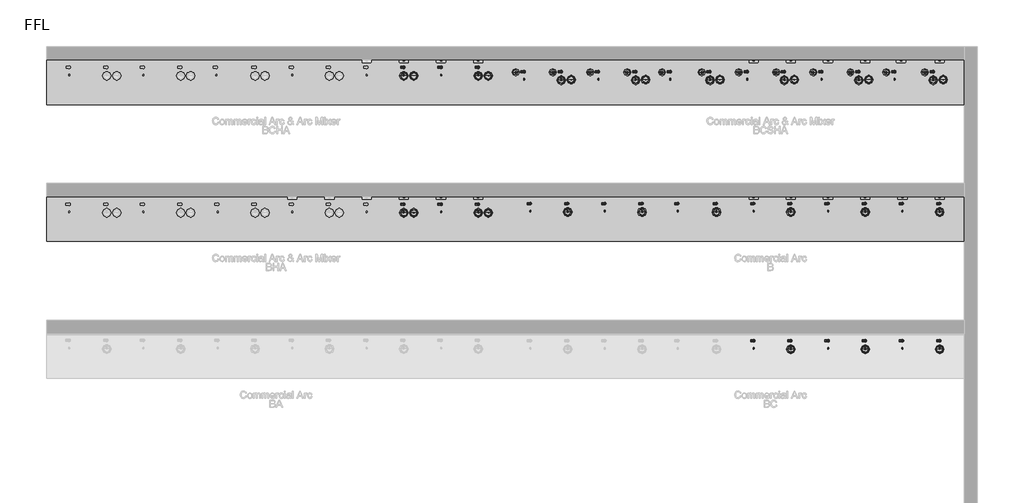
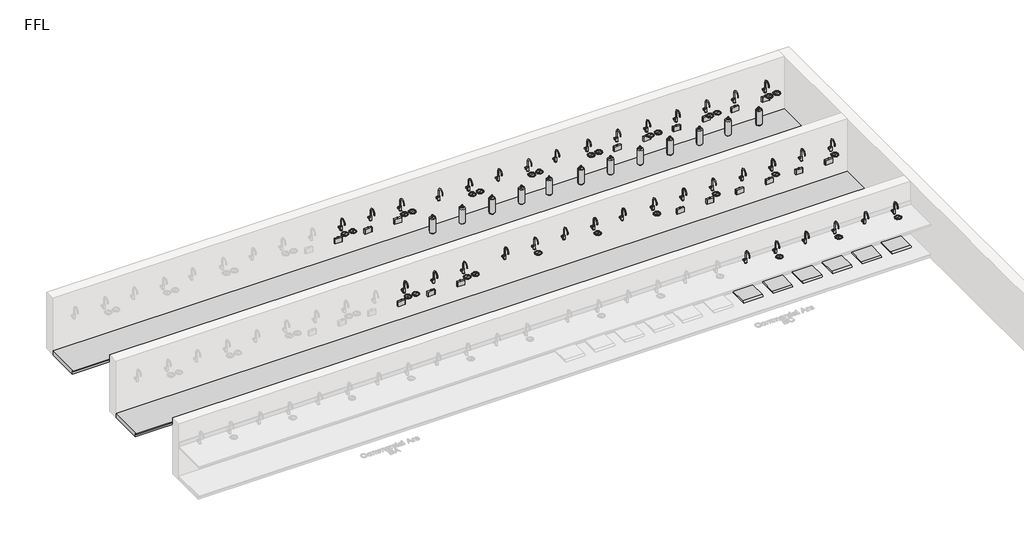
# One storey, part 6 of 10: 107 flow terminals, 2 furniture elements.
"""IFC4 building model written with IfcOpenShell, lengths in millimetres."""

from ifc_helpers import new_model, si_unit, origin, place, context, project, spatial, transform, mapped, element, save
from components import flow_terminal_1fd3c137, bcs_and_bc_6de74493, bright_chrome_dafbc2dd, brushed_chrome_743c02cf, co2_gas_cylinder_20234e14, generic_plinth_900mm_f287d53f

model = new_model("IFC4")

# Units and contexts
model_context = context("Model", 3, world=origin())
ifc_project = project(units=[si_unit("LENGTHUNIT", "METRE", prefix="MILLI")], contexts=[model_context])

# Site, building, storey
site = spatial("IfcSite", under=ifc_project)
building = spatial("IfcBuilding", under=site)
storey = spatial("IfcBuildingStorey", under=building, Name="FFL", Elevation=0.0)

# Flow terminals
placement = place(None, origin())
flow_terminal_shape = flow_terminal_1fd3c137(model_context)
element("IfcFlowTerminal", 1, ObjectType="z_PlumFixt_Zenith_Booster : Booster", at=placement, inside=storey, context=model_context, shape_type="MappedRepresentation", body=[
    mapped(flow_terminal_shape, transform((11036.2647071, 7901.1893304, 498.0), x_axis=(1.0, 0.0, 0.0), y_axis=(0.0, 1.0, 0.0), z_axis=(0.0, 0.0, 1.0))),
])
element("IfcFlowTerminal", 2, ObjectType="z_PlumFixt_Zenith_Booster : Booster", at=placement, inside=storey, context=model_context, shape_type="MappedRepresentation", body=[
    mapped(flow_terminal_shape, transform((10258.2647071, 7901.1893304, 498.0), x_axis=(1.0, 0.0, 0.0), y_axis=(0.0, 1.0, 0.0), z_axis=(0.0, 0.0, 1.0))),
])
element("IfcFlowTerminal", 3, ObjectType="z_PlumFixt_Zenith_Booster : Booster", at=placement, inside=storey, context=model_context, shape_type="MappedRepresentation", body=[
    mapped(flow_terminal_shape, transform((9536.2647071, 7901.1893304, 498.0), x_axis=(1.0, 0.0, 0.0), y_axis=(0.0, 1.0, 0.0), z_axis=(0.0, 0.0, 1.0))),
])
element("IfcFlowTerminal", 4, ObjectType="z_PlumFixt_Zenith_Booster : Booster", at=placement, inside=storey, context=model_context, shape_type="MappedRepresentation", body=[
    mapped(flow_terminal_shape, transform((7286.2647071, 7901.1893304, 498.0), x_axis=(1.0, 0.0, 0.0), y_axis=(0.0, 1.0, 0.0), z_axis=(0.0, 0.0, 1.0))),
])
element("IfcFlowTerminal", 5, ObjectType="z_PlumFixt_Zenith_Booster : Booster", at=placement, inside=storey, context=model_context, shape_type="MappedRepresentation", body=[
    mapped(flow_terminal_shape, transform((8036.2647071, 7901.1893304, 498.0), x_axis=(1.0, 0.0, 0.0), y_axis=(0.0, 1.0, 0.0), z_axis=(0.0, 0.0, 1.0))),
])
element("IfcFlowTerminal", 6, ObjectType="z_PlumFixt_Zenith_Booster : Booster", at=placement, inside=storey, context=model_context, shape_type="MappedRepresentation", body=[
    mapped(flow_terminal_shape, transform((11036.2647071, 5140.2393304, 498.0), x_axis=(1.0, 0.0, 0.0), y_axis=(0.0, 1.0, 0.0), z_axis=(0.0, 0.0, 1.0))),
])
element("IfcFlowTerminal", 7, ObjectType="z_PlumFixt_Zenith_Booster : Booster", at=placement, inside=storey, context=model_context, shape_type="MappedRepresentation", body=[
    mapped(flow_terminal_shape, transform((10286.2647071, 5140.2393304, 498.0), x_axis=(1.0, 0.0, 0.0), y_axis=(0.0, 1.0, 0.0), z_axis=(0.0, 0.0, 1.0))),
])
element("IfcFlowTerminal", 8, ObjectType="z_PlumFixt_Zenith_Booster : Booster", at=placement, inside=storey, context=model_context, shape_type="MappedRepresentation", body=[
    mapped(flow_terminal_shape, transform((9536.2647071, 5140.2393304, 498.0), x_axis=(1.0, 0.0, 0.0), y_axis=(0.0, 1.0, 0.0), z_axis=(0.0, 0.0, 1.0))),
])
element("IfcFlowTerminal", 9, ObjectType="z_PlumFixt_Zenith_Booster : Booster", at=placement, inside=storey, context=model_context, shape_type="MappedRepresentation", body=[
    mapped(flow_terminal_shape, transform((8786.2647071, 5140.2393304, 498.0), x_axis=(1.0, 0.0, 0.0), y_axis=(0.0, 1.0, 0.0), z_axis=(0.0, 0.0, 1.0))),
])
element("IfcFlowTerminal", 10, ObjectType="z_PlumFixt_Zenith_Booster : Booster", at=placement, inside=storey, context=model_context, shape_type="MappedRepresentation", body=[
    mapped(flow_terminal_shape, transform((8036.2647071, 5140.2393304, 498.0), x_axis=(1.0, 0.0, 0.0), y_axis=(0.0, 1.0, 0.0), z_axis=(0.0, 0.0, 1.0))),
])
element("IfcFlowTerminal", 11, ObjectType="z_PlumFixt_Zenith_Booster : Booster", at=placement, inside=storey, context=model_context, shape_type="MappedRepresentation", body=[
    mapped(flow_terminal_shape, transform((7286.2647071, 5140.2393304, 498.0), x_axis=(1.0, 0.0, 0.0), y_axis=(0.0, 1.0, 0.0), z_axis=(0.0, 0.0, 1.0))),
])
element("IfcFlowTerminal", 12, ObjectType="z_PlumFixt_Zenith_Booster : Booster", at=placement, inside=storey, context=model_context, shape_type="MappedRepresentation", body=[
    mapped(flow_terminal_shape, transform((10286.2647071, 2380.2393304, 538.0), x_axis=(1.0, 0.0, 0.0), y_axis=(0.0, 1.0, 0.0), z_axis=(0.0, 0.0, 1.0))),
])
element("IfcFlowTerminal", 13, ObjectType="z_PlumFixt_Zenith_Booster : Booster", at=placement, inside=storey, context=model_context, shape_type="MappedRepresentation", body=[
    mapped(flow_terminal_shape, transform((9536.2647071, 2380.2393304, 538.0), x_axis=(1.0, 0.0, 0.0), y_axis=(0.0, 1.0, 0.0), z_axis=(0.0, 0.0, 1.0))),
])
element("IfcFlowTerminal", 14, ObjectType="z_PlumFixt_Zenith_Booster : Booster", at=placement, inside=storey, context=model_context, shape_type="MappedRepresentation", body=[
    mapped(flow_terminal_shape, transform((8786.2647071, 2380.2393304, 538.0), x_axis=(1.0, 0.0, 0.0), y_axis=(0.0, 1.0, 0.0), z_axis=(0.0, 0.0, 1.0))),
])
element("IfcFlowTerminal", 15, ObjectType="z_PlumFixt_Zenith_Booster : Booster", at=placement, inside=storey, context=model_context, shape_type="MappedRepresentation", body=[
    mapped(flow_terminal_shape, transform((8036.2647071, 2380.2393304, 538.0), x_axis=(1.0, 0.0, 0.0), y_axis=(0.0, 1.0, 0.0), z_axis=(0.0, 0.0, 1.0))),
])
element("IfcFlowTerminal", 16, ObjectType="z_PlumFixt_Zenith_Booster : Booster", at=placement, inside=storey, context=model_context, shape_type="MappedRepresentation", body=[
    mapped(flow_terminal_shape, transform((7286.2647071, 2380.2393304, 538.0), x_axis=(1.0, 0.0, 0.0), y_axis=(0.0, 1.0, 0.0), z_axis=(0.0, 0.0, 1.0))),
])
element("IfcFlowTerminal", 17, ObjectType="z_PlumFixt_Zenith_Booster : Booster", at=placement, inside=storey, context=model_context, shape_type="MappedRepresentation", body=[
    mapped(flow_terminal_shape, transform((1733.2647071, 5140.2393304, 498.0), x_axis=(1.0, 0.0, 0.0), y_axis=(0.0, 1.0, 0.0), z_axis=(0.0, 0.0, 1.0))),
])
element("IfcFlowTerminal", 18, ObjectType="z_PlumFixt_Zenith_Booster : Booster", at=placement, inside=storey, context=model_context, shape_type="MappedRepresentation", body=[
    mapped(flow_terminal_shape, transform((983.2647071, 5140.2393304, 498.0), x_axis=(1.0, 0.0, 0.0), y_axis=(0.0, 1.0, 0.0), z_axis=(0.0, 0.0, 1.0))),
])
element("IfcFlowTerminal", 19, ObjectType="z_PlumFixt_Zenith_Booster : Booster", at=placement, inside=storey, context=model_context, shape_type="MappedRepresentation", body=[
    mapped(flow_terminal_shape, transform((233.2647071, 5140.2393304, 498.0), x_axis=(1.0, 0.0, 0.0), y_axis=(0.0, 1.0, 0.0), z_axis=(0.0, 0.0, 1.0))),
])
element("IfcFlowTerminal", 20, ObjectType="z_PlumFixt_Zenith_Booster : Booster", at=placement, inside=storey, context=model_context, shape_type="MappedRepresentation", body=[
    mapped(flow_terminal_shape, transform((11036.2647071, 2380.2393304, 538.0), x_axis=(1.0, 0.0, 0.0), y_axis=(0.0, 1.0, 0.0), z_axis=(0.0, 0.0, 1.0))),
])
element("IfcFlowTerminal", 21, ObjectType="z_PlumFixt_Zenith_Booster : Booster", at=placement, inside=storey, context=model_context, shape_type="MappedRepresentation", body=[
    mapped(flow_terminal_shape, transform((1733.2647071, 7900.2393304, 498.0), x_axis=(1.0, 0.0, 0.0), y_axis=(0.0, 1.0, 0.0), z_axis=(0.0, 0.0, 1.0))),
])
element("IfcFlowTerminal", 22, ObjectType="z_PlumFixt_Zenith_Booster : Booster", at=placement, inside=storey, context=model_context, shape_type="MappedRepresentation", body=[
    mapped(flow_terminal_shape, transform((983.2647071, 7900.2393304, 498.0), x_axis=(1.0, 0.0, 0.0), y_axis=(0.0, 1.0, 0.0), z_axis=(0.0, 0.0, 1.0))),
])
element("IfcFlowTerminal", 23, ObjectType="z_PlumFixt_Zenith_Booster : Booster", at=placement, inside=storey, context=model_context, shape_type="MappedRepresentation", body=[
    mapped(flow_terminal_shape, transform((233.2647071, 7900.2393304, 498.0), x_axis=(1.0, 0.0, 0.0), y_axis=(0.0, 1.0, 0.0), z_axis=(0.0, 0.0, 1.0))),
])
element("IfcFlowTerminal", 24, ObjectType="z_PlumFixt_Zenith_Booster : Booster", at=placement, inside=storey, context=model_context, shape_type="MappedRepresentation", body=[
    mapped(flow_terminal_shape, transform((8786.2647071, 7901.1893304, 498.0), x_axis=(1.0, 0.0, 0.0), y_axis=(0.0, 1.0, 0.0), z_axis=(0.0, 0.0, 1.0))),
])
bcs_and_bc_shape = bcs_and_bc_6de74493(model_context)
element("IfcFlowTerminal", 25, ObjectType="z_PlumFixt_Zenith_Vent Tray : BCS and BC", at=placement, inside=storey, context=model_context, shape_type="MappedRepresentation", body=[
    mapped(bcs_and_bc_shape, transform((7286.2647071, 2200.7393304, 100.0), x_axis=(1.0, 0.0, 0.0), y_axis=(0.0, 1.0, 0.0), z_axis=(0.0, 0.0, 1.0))),
])
element("IfcFlowTerminal", 26, ObjectType="z_PlumFixt_Zenith_Vent Tray : BCS and BC", at=placement, inside=storey, context=model_context, shape_type="MappedRepresentation", body=[
    mapped(bcs_and_bc_shape, transform((8036.2647071, 2200.7393304, 100.0), x_axis=(1.0, 0.0, 0.0), y_axis=(0.0, 1.0, 0.0), z_axis=(0.0, 0.0, 1.0))),
])
element("IfcFlowTerminal", 27, ObjectType="z_PlumFixt_Zenith_Vent Tray : BCS and BC", at=placement, inside=storey, context=model_context, shape_type="MappedRepresentation", body=[
    mapped(bcs_and_bc_shape, transform((8786.2647071, 2200.7393304, 100.0), x_axis=(1.0, 0.0, 0.0), y_axis=(0.0, 1.0, 0.0), z_axis=(0.0, 0.0, 1.0))),
])
element("IfcFlowTerminal", 28, ObjectType="z_PlumFixt_Zenith_Vent Tray : BCS and BC", at=placement, inside=storey, context=model_context, shape_type="MappedRepresentation", body=[
    mapped(bcs_and_bc_shape, transform((9536.2647071, 2200.7393304, 100.0), x_axis=(1.0, 0.0, 0.0), y_axis=(0.0, 1.0, 0.0), z_axis=(0.0, 0.0, 1.0))),
])
element("IfcFlowTerminal", 29, ObjectType="z_PlumFixt_Zenith_Vent Tray : BCS and BC", at=placement, inside=storey, context=model_context, shape_type="MappedRepresentation", body=[
    mapped(bcs_and_bc_shape, transform((10286.2647071, 2200.7393304, 100.0), x_axis=(1.0, 0.0, 0.0), y_axis=(0.0, 1.0, 0.0), z_axis=(0.0, 0.0, 1.0))),
])
element("IfcFlowTerminal", 30, ObjectType="z_PlumFixt_Zenith_Vent Tray : BCS and BC", at=placement, inside=storey, context=model_context, shape_type="MappedRepresentation", body=[
    mapped(bcs_and_bc_shape, transform((11036.2647071, 2200.7393304, 100.0), x_axis=(1.0, 0.0, 0.0), y_axis=(0.0, 1.0, 0.0), z_axis=(0.0, 0.0, 1.0))),
])
bright_chrome_shape = bright_chrome_dafbc2dd(model_context)
element("IfcFlowTerminal", 31, ObjectType="z_PlumFixt_Zenith_Arc : Bright Chrome", at=placement, inside=storey, context=model_context, shape_type="MappedRepresentation", body=[
    mapped(bright_chrome_shape, transform((2639.6778229, 7524.5155619, 900.0), x_axis=(1.0, 0.0, 0.0), y_axis=(0.0, 1.0, 0.0), z_axis=(0.0, 0.0, 1.0))),
])
element("IfcFlowTerminal", 32, ObjectType="z_PlumFixt_Zenith_Arc : Bright Chrome", at=placement, inside=storey, context=model_context, shape_type="MappedRepresentation", body=[
    mapped(bright_chrome_shape, transform((2769.2647071, 4865.7393304, 900.0), x_axis=(1.0, 0.0, 0.0), y_axis=(0.0, 1.0, 0.0), z_axis=(0.0, 0.0, 1.0))),
])
brushed_chrome_shape = brushed_chrome_743c02cf(model_context)
element("IfcFlowTerminal", 33, ObjectType="z_PlumFixt_Zenith_Font : Brushed Chrome", at=placement, inside=storey, context=model_context, shape_type="MappedRepresentation", body=[
    mapped(brushed_chrome_shape, transform((3406.6778229, 7425.0155619, 900.0), x_axis=(1.0, 0.0, 0.0), y_axis=(0.0, 1.0, 0.0), z_axis=(0.0, 0.0, 1.0))),
])
element("IfcFlowTerminal", 34, ObjectType="z_PlumFixt_Zenith_Font : Brushed Chrome", at=placement, inside=storey, context=model_context, shape_type="MappedRepresentation", body=[
    mapped(brushed_chrome_shape, transform((3606.6778229, 7436.6616039, 900.0), x_axis=(1.0, 0.0, 0.0), y_axis=(0.0, 1.0, 0.0), z_axis=(0.0, 0.0, 1.0))),
])
element("IfcFlowTerminal", 35, ObjectType="z_PlumFixt_Zenith_Font : Brushed Chrome", at=placement, inside=storey, context=model_context, shape_type="MappedRepresentation", body=[
    mapped(brushed_chrome_shape, transform((3536.2647071, 4766.2393304, 900.0), x_axis=(1.0, 0.0, 0.0), y_axis=(0.0, 1.0, 0.0), z_axis=(0.0, 0.0, 1.0))),
])
element("IfcFlowTerminal", 36, ObjectType="z_PlumFixt_Zenith_Arc : Brushed Chrome", at=placement, inside=storey, context=model_context, shape_type="MappedRepresentation", body=[
    mapped(bright_chrome_shape, transform((3389.6778229, 7524.5155619, 900.0), x_axis=(1.0, 0.0, 0.0), y_axis=(0.0, 1.0, 0.0), z_axis=(0.0, 0.0, 1.0))),
])
element("IfcFlowTerminal", 37, ObjectType="z_PlumFixt_Zenith_Arc : Brushed Chrome", at=placement, inside=storey, context=model_context, shape_type="MappedRepresentation", body=[
    mapped(bright_chrome_shape, transform((3519.2647071, 4865.7393304, 900.0), x_axis=(1.0, 0.0, 0.0), y_axis=(0.0, 1.0, 0.0), z_axis=(0.0, 0.0, 1.0))),
])
element("IfcFlowTerminal", 38, ObjectType="z_PlumFixt_Zenith_Arc : Brushed Gold", at=placement, inside=storey, context=model_context, shape_type="MappedRepresentation", body=[
    mapped(bright_chrome_shape, transform((4139.6778229, 7524.5155619, 900.0), x_axis=(1.0, 0.0, 0.0), y_axis=(0.0, 1.0, 0.0), z_axis=(0.0, 0.0, 1.0))),
])
element("IfcFlowTerminal", 39, ObjectType="z_PlumFixt_Zenith_Arc : Brushed Gold", at=placement, inside=storey, context=model_context, shape_type="MappedRepresentation", body=[
    mapped(bright_chrome_shape, transform((4269.2647071, 4865.7393304, 900.0), x_axis=(1.0, 0.0, 0.0), y_axis=(0.0, 1.0, 0.0), z_axis=(0.0, 0.0, 1.0))),
])
element("IfcFlowTerminal", 40, ObjectType="z_PlumFixt_Zenith_Font : Brushed Nickel", at=placement, inside=storey, context=model_context, shape_type="MappedRepresentation", body=[
    mapped(brushed_chrome_shape, transform((4906.6778229, 7425.0155619, 900.0), x_axis=(1.0, 0.0, 0.0), y_axis=(0.0, 1.0, 0.0), z_axis=(0.0, 0.0, 1.0))),
])
element("IfcFlowTerminal", 41, ObjectType="z_PlumFixt_Zenith_Font : Brushed Nickel", at=placement, inside=storey, context=model_context, shape_type="MappedRepresentation", body=[
    mapped(brushed_chrome_shape, transform((5106.6778229, 7436.6616039, 900.0), x_axis=(1.0, 0.0, 0.0), y_axis=(0.0, 1.0, 0.0), z_axis=(0.0, 0.0, 1.0))),
])
element("IfcFlowTerminal", 42, ObjectType="z_PlumFixt_Zenith_Font : Brushed Nickel", at=placement, inside=storey, context=model_context, shape_type="MappedRepresentation", body=[
    mapped(brushed_chrome_shape, transform((5036.2647071, 4766.2393304, 900.0), x_axis=(1.0, 0.0, 0.0), y_axis=(0.0, 1.0, 0.0), z_axis=(0.0, 0.0, 1.0))),
])
element("IfcFlowTerminal", 43, ObjectType="z_PlumFixt_Zenith_Arc : Brushed Nickel", at=placement, inside=storey, context=model_context, shape_type="MappedRepresentation", body=[
    mapped(bright_chrome_shape, transform((4889.6778229, 7524.5155619, 900.0), x_axis=(1.0, 0.0, 0.0), y_axis=(0.0, 1.0, 0.0), z_axis=(0.0, 0.0, 1.0))),
])
element("IfcFlowTerminal", 44, ObjectType="z_PlumFixt_Zenith_Arc : Brushed Nickel", at=placement, inside=storey, context=model_context, shape_type="MappedRepresentation", body=[
    mapped(bright_chrome_shape, transform((5019.2647071, 4865.7393304, 900.0), x_axis=(1.0, 0.0, 0.0), y_axis=(0.0, 1.0, 0.0), z_axis=(0.0, 0.0, 1.0))),
])
element("IfcFlowTerminal", 45, ObjectType="z_PlumFixt_Zenith_Arc : Brushed Rose Gold", at=placement, inside=storey, context=model_context, shape_type="MappedRepresentation", body=[
    mapped(bright_chrome_shape, transform((5741.2647071, 4865.7393304, 900.0), x_axis=(1.0, 0.0, 0.0), y_axis=(0.0, 1.0, 0.0), z_axis=(0.0, 0.0, 1.0))),
])
element("IfcFlowTerminal", 46, ObjectType="z_PlumFixt_Zenith_Arc : Brushed Rose Gold", at=placement, inside=storey, context=model_context, shape_type="MappedRepresentation", body=[
    mapped(bright_chrome_shape, transform((5589.6778229, 7524.5155619, 900.0), x_axis=(1.0, 0.0, 0.0), y_axis=(0.0, 1.0, 0.0), z_axis=(0.0, 0.0, 1.0))),
])
co2_gas_cylinder_shape = co2_gas_cylinder_20234e14(model_context)
element("IfcFlowTerminal", 47, ObjectType="z_PlumFixt_Zenith_CO2 Gas Cylinder : CO2 Gas Cylinder", at=placement, inside=storey, context=model_context, shape_type="MappedRepresentation", body=[
    mapped(co2_gas_cylinder_shape, transform((10741.2647071, 7510.1893304, 100.0), x_axis=(-1.0, 0.0, 0.0), y_axis=(0.0, -1.0, 0.0), z_axis=(0.0, 0.0, 1.0))),
])
element("IfcFlowTerminal", 48, ObjectType="z_PlumFixt_Zenith_CO2 Gas Cylinder : CO2 Gas Cylinder", at=placement, inside=storey, context=model_context, shape_type="MappedRepresentation", body=[
    mapped(co2_gas_cylinder_shape, transform((9963.2647071, 7510.1893304, 100.0), x_axis=(-1.0, 0.0, 0.0), y_axis=(0.0, -1.0, 0.0), z_axis=(0.0, 0.0, 1.0))),
])
element("IfcFlowTerminal", 49, ObjectType="z_PlumFixt_Zenith_CO2 Gas Cylinder : CO2 Gas Cylinder", at=placement, inside=storey, context=model_context, shape_type="MappedRepresentation", body=[
    mapped(co2_gas_cylinder_shape, transform((9241.2647071, 7510.1893304, 100.0), x_axis=(-1.0, 0.0, 0.0), y_axis=(0.0, -1.0, 0.0), z_axis=(0.0, 0.0, 1.0))),
])
element("IfcFlowTerminal", 50, ObjectType="z_PlumFixt_Zenith_CO2 Gas Cylinder : CO2 Gas Cylinder", at=placement, inside=storey, context=model_context, shape_type="MappedRepresentation", body=[
    mapped(co2_gas_cylinder_shape, transform((7741.2647071, 7510.1893304, 100.0), x_axis=(-1.0, 0.0, 0.0), y_axis=(0.0, -1.0, 0.0), z_axis=(0.0, 0.0, 1.0))),
])
element("IfcFlowTerminal", 51, ObjectType="z_PlumFixt_Zenith_CO2 Gas Cylinder : CO2 Gas Cylinder", at=placement, inside=storey, context=model_context, shape_type="MappedRepresentation", body=[
    mapped(co2_gas_cylinder_shape, transform((6991.2647071, 7510.1893304, 100.0), x_axis=(-1.0, 0.0, 0.0), y_axis=(0.0, -1.0, 0.0), z_axis=(0.0, 0.0, 1.0))),
])
element("IfcFlowTerminal", 52, ObjectType="z_PlumFixt_Zenith_CO2 Gas Cylinder : CO2 Gas Cylinder", at=placement, inside=storey, context=model_context, shape_type="MappedRepresentation", body=[
    mapped(co2_gas_cylinder_shape, transform((4741.2647071, 7510.1893304, 100.0), x_axis=(-1.0, 0.0, 0.0), y_axis=(0.0, -1.0, 0.0), z_axis=(0.0, 0.0, 1.0))),
])
element("IfcFlowTerminal", 53, ObjectType="z_PlumFixt_Zenith_CO2 Gas Cylinder : CO2 Gas Cylinder", at=placement, inside=storey, context=model_context, shape_type="MappedRepresentation", body=[
    mapped(co2_gas_cylinder_shape, transform((3991.2647071, 7510.1893304, 100.0), x_axis=(-1.0, 0.0, 0.0), y_axis=(0.0, -1.0, 0.0), z_axis=(0.0, 0.0, 1.0))),
])
element("IfcFlowTerminal", 54, ObjectType="z_PlumFixt_Zenith_CO2 Gas Cylinder : CO2 Gas Cylinder", at=placement, inside=storey, context=model_context, shape_type="MappedRepresentation", body=[
    mapped(co2_gas_cylinder_shape, transform((3241.2647071, 7510.1893304, 100.0), x_axis=(-1.0, 0.0, 0.0), y_axis=(0.0, -1.0, 0.0), z_axis=(0.0, 0.0, 1.0))),
])
element("IfcFlowTerminal", 55, ObjectType="z_PlumFixt_Zenith_CO2 Gas Cylinder : CO2 Gas Cylinder", at=placement, inside=storey, context=model_context, shape_type="MappedRepresentation", body=[
    mapped(co2_gas_cylinder_shape, transform((2491.2647071, 7510.1893304, 100.0), x_axis=(-1.0, 0.0, 0.0), y_axis=(0.0, -1.0, 0.0), z_axis=(0.0, 0.0, 1.0))),
])
element("IfcFlowTerminal", 56, ObjectType="z_PlumFixt_Zenith_CO2 Gas Cylinder : CO2 Gas Cylinder", at=placement, inside=storey, context=model_context, shape_type="MappedRepresentation", body=[
    mapped(co2_gas_cylinder_shape, transform((5441.2647071, 7510.1893304, 100.0), x_axis=(-1.0, 0.0, 0.0), y_axis=(0.0, -1.0, 0.0), z_axis=(0.0, 0.0, 1.0))),
])
element("IfcFlowTerminal", 57, ObjectType="z_PlumFixt_Zenith_CO2 Gas Cylinder : CO2 Gas Cylinder", at=placement, inside=storey, context=model_context, shape_type="MappedRepresentation", body=[
    mapped(co2_gas_cylinder_shape, transform((6241.2647071, 7510.1893304, 100.0), x_axis=(-1.0, 0.0, 0.0), y_axis=(0.0, -1.0, 0.0), z_axis=(0.0, 0.0, 1.0))),
])
element("IfcFlowTerminal", 58, ObjectType="z_PlumFixt_Zenith_CO2 Gas Cylinder : CO2 Gas Cylinder", at=placement, inside=storey, context=model_context, shape_type="MappedRepresentation", body=[
    mapped(co2_gas_cylinder_shape, transform((8491.2647071, 7510.1893304, 100.0), x_axis=(-1.0, 0.0, 0.0), y_axis=(0.0, -1.0, 0.0), z_axis=(0.0, 0.0, 1.0))),
])
element("IfcFlowTerminal", 59, ObjectType="z_PlumFixt_Zenith_Font : Gloss Black", at=placement, inside=storey, context=model_context, shape_type="MappedRepresentation", body=[
    mapped(brushed_chrome_shape, transform((6536.2647071, 4766.2393304, 900.0), x_axis=(1.0, 0.0, 0.0), y_axis=(0.0, 1.0, 0.0), z_axis=(0.0, 0.0, 1.0))),
])
element("IfcFlowTerminal", 60, ObjectType="z_PlumFixt_Zenith_Font : Gloss Black", at=placement, inside=storey, context=model_context, shape_type="MappedRepresentation", body=[
    mapped(brushed_chrome_shape, transform((6406.6778229, 7425.0155619, 900.0), x_axis=(1.0, 0.0, 0.0), y_axis=(0.0, 1.0, 0.0), z_axis=(0.0, 0.0, 1.0))),
])
element("IfcFlowTerminal", 61, ObjectType="z_PlumFixt_Zenith_Font : Gloss Black", at=placement, inside=storey, context=model_context, shape_type="MappedRepresentation", body=[
    mapped(brushed_chrome_shape, transform((6606.6778229, 7436.6616039, 900.0), x_axis=(1.0, 0.0, 0.0), y_axis=(0.0, 1.0, 0.0), z_axis=(0.0, 0.0, 1.0))),
])
element("IfcFlowTerminal", 62, ObjectType="z_PlumFixt_Zenith_Arc : Gloss Black", at=placement, inside=storey, context=model_context, shape_type="MappedRepresentation", body=[
    mapped(bright_chrome_shape, transform((6519.2647071, 4865.7393304, 900.0), x_axis=(1.0, 0.0, 0.0), y_axis=(0.0, 1.0, 0.0), z_axis=(0.0, 0.0, 1.0))),
])
element("IfcFlowTerminal", 63, ObjectType="z_PlumFixt_Zenith_Arc : Gloss Black", at=placement, inside=storey, context=model_context, shape_type="MappedRepresentation", body=[
    mapped(bright_chrome_shape, transform((6389.6778229, 7524.5155619, 900.0), x_axis=(1.0, 0.0, 0.0), y_axis=(0.0, 1.0, 0.0), z_axis=(0.0, 0.0, 1.0))),
])
element("IfcFlowTerminal", 64, ObjectType="z_PlumFixt_Zenith_Arc : Gold", at=placement, inside=storey, context=model_context, shape_type="MappedRepresentation", body=[
    mapped(bright_chrome_shape, transform((7139.6778229, 7524.5155619, 900.0), x_axis=(1.0, 0.0, 0.0), y_axis=(0.0, 1.0, 0.0), z_axis=(0.0, 0.0, 1.0))),
])
element("IfcFlowTerminal", 65, ObjectType="z_PlumFixt_Zenith_Arc : Gold", at=placement, inside=storey, context=model_context, shape_type="MappedRepresentation", body=[
    mapped(bright_chrome_shape, transform((7269.2647071, 4865.7393304, 900.0), x_axis=(1.0, 0.0, 0.0), y_axis=(0.0, 1.0, 0.0), z_axis=(0.0, 0.0, 1.0))),
])
element("IfcFlowTerminal", 66, ObjectType="z_PlumFixt_Zenith_Arc : Gold", at=placement, inside=storey, context=model_context, shape_type="MappedRepresentation", body=[
    mapped(bright_chrome_shape, transform((7269.2647071, 2099.3893304, 900.0), x_axis=(1.0, 0.0, 0.0), y_axis=(0.0, 1.0, 0.0), z_axis=(0.0, 0.0, 1.0))),
])
element("IfcFlowTerminal", 67, ObjectType="z_PlumFixt_Zenith_Font : Gunmetal", at=placement, inside=storey, context=model_context, shape_type="MappedRepresentation", body=[
    mapped(brushed_chrome_shape, transform((7906.6778229, 7425.0155619, 900.0), x_axis=(1.0, 0.0, 0.0), y_axis=(0.0, 1.0, 0.0), z_axis=(0.0, 0.0, 1.0))),
])
element("IfcFlowTerminal", 68, ObjectType="z_PlumFixt_Zenith_Font : Gunmetal", at=placement, inside=storey, context=model_context, shape_type="MappedRepresentation", body=[
    mapped(brushed_chrome_shape, transform((8106.6778229, 7436.6616039, 900.0), x_axis=(1.0, 0.0, 0.0), y_axis=(0.0, 1.0, 0.0), z_axis=(0.0, 0.0, 1.0))),
])
element("IfcFlowTerminal", 69, ObjectType="z_PlumFixt_Zenith_Font : Gunmetal", at=placement, inside=storey, context=model_context, shape_type="MappedRepresentation", body=[
    mapped(brushed_chrome_shape, transform((8036.2647071, 4766.2393304, 900.0), x_axis=(1.0, 0.0, 0.0), y_axis=(0.0, 1.0, 0.0), z_axis=(0.0, 0.0, 1.0))),
])
element("IfcFlowTerminal", 70, ObjectType="z_PlumFixt_Zenith_Font : Gunmetal", at=placement, inside=storey, context=model_context, shape_type="MappedRepresentation", body=[
    mapped(brushed_chrome_shape, transform((8036.2647071, 1999.8893304, 900.0), x_axis=(1.0, 0.0, 0.0), y_axis=(0.0, 1.0, 0.0), z_axis=(0.0, 0.0, 1.0))),
])
element("IfcFlowTerminal", 71, ObjectType="z_PlumFixt_Zenith_Arc : Gunmetal", at=placement, inside=storey, context=model_context, shape_type="MappedRepresentation", body=[
    mapped(bright_chrome_shape, transform((7889.6778229, 7524.5155619, 900.0), x_axis=(1.0, 0.0, 0.0), y_axis=(0.0, 1.0, 0.0), z_axis=(0.0, 0.0, 1.0))),
])
element("IfcFlowTerminal", 72, ObjectType="z_PlumFixt_Zenith_Arc : Gunmetal", at=placement, inside=storey, context=model_context, shape_type="MappedRepresentation", body=[
    mapped(bright_chrome_shape, transform((8019.2647071, 4865.7393304, 900.0), x_axis=(1.0, 0.0, 0.0), y_axis=(0.0, 1.0, 0.0), z_axis=(0.0, 0.0, 1.0))),
])
element("IfcFlowTerminal", 73, ObjectType="z_PlumFixt_Zenith_Arc : Gunmetal", at=placement, inside=storey, context=model_context, shape_type="MappedRepresentation", body=[
    mapped(bright_chrome_shape, transform((8019.2647071, 2099.3893304, 900.0), x_axis=(1.0, 0.0, 0.0), y_axis=(0.0, 1.0, 0.0), z_axis=(0.0, 0.0, 1.0))),
])
element("IfcFlowTerminal", 74, ObjectType="z_PlumFixt_Zenith_Arc : Matte Black", at=placement, inside=storey, context=model_context, shape_type="MappedRepresentation", body=[
    mapped(bright_chrome_shape, transform((8769.2647071, 4865.7393304, 900.0), x_axis=(1.0, 0.0, 0.0), y_axis=(0.0, 1.0, 0.0), z_axis=(0.0, 0.0, 1.0))),
])
element("IfcFlowTerminal", 75, ObjectType="z_PlumFixt_Zenith_Arc : Matte Black", at=placement, inside=storey, context=model_context, shape_type="MappedRepresentation", body=[
    mapped(bright_chrome_shape, transform((8769.2647071, 2099.3893304, 900.0), x_axis=(1.0, 0.0, 0.0), y_axis=(0.0, 1.0, 0.0), z_axis=(0.0, 0.0, 1.0))),
])
element("IfcFlowTerminal", 76, ObjectType="z_PlumFixt_Zenith_Arc : Matte Black", at=placement, inside=storey, context=model_context, shape_type="MappedRepresentation", body=[
    mapped(bright_chrome_shape, transform((8639.6778229, 7524.5155619, 900.0), x_axis=(1.0, 0.0, 0.0), y_axis=(0.0, 1.0, 0.0), z_axis=(0.0, 0.0, 1.0))),
])
element("IfcFlowTerminal", 77, ObjectType="z_PlumFixt_Zenith_Font : Nickel", at=placement, inside=storey, context=model_context, shape_type="MappedRepresentation", body=[
    mapped(brushed_chrome_shape, transform((9406.6778229, 7425.0155619, 900.0), x_axis=(1.0, 0.0, 0.0), y_axis=(0.0, 1.0, 0.0), z_axis=(0.0, 0.0, 1.0))),
])
element("IfcFlowTerminal", 78, ObjectType="z_PlumFixt_Zenith_Font : Nickel", at=placement, inside=storey, context=model_context, shape_type="MappedRepresentation", body=[
    mapped(brushed_chrome_shape, transform((9606.6778229, 7436.6616039, 900.0), x_axis=(1.0, 0.0, 0.0), y_axis=(0.0, 1.0, 0.0), z_axis=(0.0, 0.0, 1.0))),
])
element("IfcFlowTerminal", 79, ObjectType="z_PlumFixt_Zenith_Font : Nickel", at=placement, inside=storey, context=model_context, shape_type="MappedRepresentation", body=[
    mapped(brushed_chrome_shape, transform((9536.2647071, 4766.2393304, 900.0), x_axis=(1.0, 0.0, 0.0), y_axis=(0.0, 1.0, 0.0), z_axis=(0.0, 0.0, 1.0))),
])
element("IfcFlowTerminal", 80, ObjectType="z_PlumFixt_Zenith_Font : Nickel", at=placement, inside=storey, context=model_context, shape_type="MappedRepresentation", body=[
    mapped(brushed_chrome_shape, transform((9536.2647071, 1999.8893304, 900.0), x_axis=(1.0, 0.0, 0.0), y_axis=(0.0, 1.0, 0.0), z_axis=(0.0, 0.0, 1.0))),
])
element("IfcFlowTerminal", 81, ObjectType="z_PlumFixt_Zenith_Font : Nickel", at=placement, inside=storey, context=model_context, shape_type="MappedRepresentation", body=[
    mapped(brushed_chrome_shape, transform((233.2647071, 4751.2393304, 900.0), x_axis=(1.0, 0.0, 0.0), y_axis=(0.0, 1.0, 0.0), z_axis=(0.0, 0.0, 1.0))),
])
element("IfcFlowTerminal", 82, ObjectType="z_PlumFixt_Zenith_Font : Nickel", at=placement, inside=storey, context=model_context, shape_type="MappedRepresentation", body=[
    mapped(brushed_chrome_shape, transform((433.2647071, 4751.2393304, 900.0), x_axis=(1.0, 0.0, 0.0), y_axis=(0.0, 1.0, 0.0), z_axis=(0.0, 0.0, 1.0))),
])
element("IfcFlowTerminal", 83, ObjectType="z_PlumFixt_Zenith_Font : Nickel", at=placement, inside=storey, context=model_context, shape_type="MappedRepresentation", body=[
    mapped(brushed_chrome_shape, transform((233.2647071, 7511.2393304, 900.0), x_axis=(1.0, 0.0, 0.0), y_axis=(0.0, 1.0, 0.0), z_axis=(0.0, 0.0, 1.0))),
])
element("IfcFlowTerminal", 84, ObjectType="z_PlumFixt_Zenith_Font : Nickel", at=placement, inside=storey, context=model_context, shape_type="MappedRepresentation", body=[
    mapped(brushed_chrome_shape, transform((433.2647071, 7511.2393304, 900.0), x_axis=(1.0, 0.0, 0.0), y_axis=(0.0, 1.0, 0.0), z_axis=(0.0, 0.0, 1.0))),
])
element("IfcFlowTerminal", 85, ObjectType="z_PlumFixt_Zenith_Arc : Nickel", at=placement, inside=storey, context=model_context, shape_type="MappedRepresentation", body=[
    mapped(bright_chrome_shape, transform((9389.6778229, 7524.5155619, 900.0), x_axis=(1.0, 0.0, 0.0), y_axis=(0.0, 1.0, 0.0), z_axis=(0.0, 0.0, 1.0))),
])
element("IfcFlowTerminal", 86, ObjectType="z_PlumFixt_Zenith_Arc : Nickel", at=placement, inside=storey, context=model_context, shape_type="MappedRepresentation", body=[
    mapped(bright_chrome_shape, transform((9519.2647071, 4865.7393304, 900.0), x_axis=(1.0, 0.0, 0.0), y_axis=(0.0, 1.0, 0.0), z_axis=(0.0, 0.0, 1.0))),
])
element("IfcFlowTerminal", 87, ObjectType="z_PlumFixt_Zenith_Arc : Nickel", at=placement, inside=storey, context=model_context, shape_type="MappedRepresentation", body=[
    mapped(bright_chrome_shape, transform((9519.2647071, 2099.3893304, 900.0), x_axis=(1.0, 0.0, 0.0), y_axis=(0.0, 1.0, 0.0), z_axis=(0.0, 0.0, 1.0))),
])
element("IfcFlowTerminal", 88, ObjectType="z_PlumFixt_Zenith_Arc : Nickel", at=placement, inside=storey, context=model_context, shape_type="MappedRepresentation", body=[
    mapped(bright_chrome_shape, transform((216.2647071, 4850.7393304, 900.0), x_axis=(1.0, 0.0, 0.0), y_axis=(0.0, 1.0, 0.0), z_axis=(0.0, 0.0, 1.0))),
])
element("IfcFlowTerminal", 89, ObjectType="z_PlumFixt_Zenith_Arc : Nickel", at=placement, inside=storey, context=model_context, shape_type="MappedRepresentation", body=[
    mapped(bright_chrome_shape, transform((216.2647071, 7610.7393304, 900.0), x_axis=(1.0, 0.0, 0.0), y_axis=(0.0, 1.0, 0.0), z_axis=(0.0, 0.0, 1.0))),
])
element("IfcFlowTerminal", 90, ObjectType="z_PlumFixt_Zenith_Arc : Platinum", at=placement, inside=storey, context=model_context, shape_type="MappedRepresentation", body=[
    mapped(bright_chrome_shape, transform((10111.6778229, 7524.5155619, 900.0), x_axis=(1.0, 0.0, 0.0), y_axis=(0.0, 1.0, 0.0), z_axis=(0.0, 0.0, 1.0))),
])
element("IfcFlowTerminal", 91, ObjectType="z_PlumFixt_Zenith_Arc : Platinum", at=placement, inside=storey, context=model_context, shape_type="MappedRepresentation", body=[
    mapped(bright_chrome_shape, transform((10269.2647071, 4865.7393304, 900.0), x_axis=(1.0, 0.0, 0.0), y_axis=(0.0, 1.0, 0.0), z_axis=(0.0, 0.0, 1.0))),
])
element("IfcFlowTerminal", 92, ObjectType="z_PlumFixt_Zenith_Arc : Platinum", at=placement, inside=storey, context=model_context, shape_type="MappedRepresentation", body=[
    mapped(bright_chrome_shape, transform((10269.2647071, 2099.3893304, 900.0), x_axis=(1.0, 0.0, 0.0), y_axis=(0.0, 1.0, 0.0), z_axis=(0.0, 0.0, 1.0))),
])
element("IfcFlowTerminal", 93, ObjectType="z_PlumFixt_Zenith_Arc : Platinum", at=placement, inside=storey, context=model_context, shape_type="MappedRepresentation", body=[
    mapped(bright_chrome_shape, transform((966.2647071, 4850.7393304, 900.0), x_axis=(1.0, 0.0, 0.0), y_axis=(0.0, 1.0, 0.0), z_axis=(0.0, 0.0, 1.0))),
])
element("IfcFlowTerminal", 94, ObjectType="z_PlumFixt_Zenith_Arc : Platinum", at=placement, inside=storey, context=model_context, shape_type="MappedRepresentation", body=[
    mapped(bright_chrome_shape, transform((966.2647071, 7610.7393304, 900.0), x_axis=(1.0, 0.0, 0.0), y_axis=(0.0, 1.0, 0.0), z_axis=(0.0, 0.0, 1.0))),
])
element("IfcFlowTerminal", 95, ObjectType="z_PlumFixt_Zenith_Font : Rose Gold", at=placement, inside=storey, context=model_context, shape_type="MappedRepresentation", body=[
    mapped(brushed_chrome_shape, transform((10906.6778229, 7425.0155619, 900.0), x_axis=(1.0, 0.0, 0.0), y_axis=(0.0, 1.0, 0.0), z_axis=(0.0, 0.0, 1.0))),
])
element("IfcFlowTerminal", 96, ObjectType="z_PlumFixt_Zenith_Font : Rose Gold", at=placement, inside=storey, context=model_context, shape_type="MappedRepresentation", body=[
    mapped(brushed_chrome_shape, transform((11106.6778229, 7436.6616039, 900.0), x_axis=(1.0, 0.0, 0.0), y_axis=(0.0, 1.0, 0.0), z_axis=(0.0, 0.0, 1.0))),
])
element("IfcFlowTerminal", 97, ObjectType="z_PlumFixt_Zenith_Font : Rose Gold", at=placement, inside=storey, context=model_context, shape_type="MappedRepresentation", body=[
    mapped(brushed_chrome_shape, transform((11036.2647071, 4766.2393304, 900.0), x_axis=(1.0, 0.0, 0.0), y_axis=(0.0, 1.0, 0.0), z_axis=(0.0, 0.0, 1.0))),
])
element("IfcFlowTerminal", 98, ObjectType="z_PlumFixt_Zenith_Font : Rose Gold", at=placement, inside=storey, context=model_context, shape_type="MappedRepresentation", body=[
    mapped(brushed_chrome_shape, transform((11036.2647071, 1999.8893304, 900.0), x_axis=(1.0, 0.0, 0.0), y_axis=(0.0, 1.0, 0.0), z_axis=(0.0, 0.0, 1.0))),
])
element("IfcFlowTerminal", 99, ObjectType="z_PlumFixt_Zenith_Font : Rose Gold", at=placement, inside=storey, context=model_context, shape_type="MappedRepresentation", body=[
    mapped(brushed_chrome_shape, transform((1733.2647071, 4751.2393304, 900.0), x_axis=(1.0, 0.0, 0.0), y_axis=(0.0, 1.0, 0.0), z_axis=(0.0, 0.0, 1.0))),
])
element("IfcFlowTerminal", 100, ObjectType="z_PlumFixt_Zenith_Font : Rose Gold", at=placement, inside=storey, context=model_context, shape_type="MappedRepresentation", body=[
    mapped(brushed_chrome_shape, transform((1933.2647071, 4751.2393304, 900.0), x_axis=(1.0, 0.0, 0.0), y_axis=(0.0, 1.0, 0.0), z_axis=(0.0, 0.0, 1.0))),
])
element("IfcFlowTerminal", 101, ObjectType="z_PlumFixt_Zenith_Font : Rose Gold", at=placement, inside=storey, context=model_context, shape_type="MappedRepresentation", body=[
    mapped(brushed_chrome_shape, transform((1733.2647071, 7511.2393304, 900.0), x_axis=(1.0, 0.0, 0.0), y_axis=(0.0, 1.0, 0.0), z_axis=(0.0, 0.0, 1.0))),
])
element("IfcFlowTerminal", 102, ObjectType="z_PlumFixt_Zenith_Font : Rose Gold", at=placement, inside=storey, context=model_context, shape_type="MappedRepresentation", body=[
    mapped(brushed_chrome_shape, transform((1933.2647071, 7511.2393304, 900.0), x_axis=(1.0, 0.0, 0.0), y_axis=(0.0, 1.0, 0.0), z_axis=(0.0, 0.0, 1.0))),
])
element("IfcFlowTerminal", 103, ObjectType="z_PlumFixt_Zenith_Arc : Rose Gold", at=placement, inside=storey, context=model_context, shape_type="MappedRepresentation", body=[
    mapped(bright_chrome_shape, transform((10889.6778229, 7524.5155619, 900.0), x_axis=(1.0, 0.0, 0.0), y_axis=(0.0, 1.0, 0.0), z_axis=(0.0, 0.0, 1.0))),
])
element("IfcFlowTerminal", 104, ObjectType="z_PlumFixt_Zenith_Arc : Rose Gold", at=placement, inside=storey, context=model_context, shape_type="MappedRepresentation", body=[
    mapped(bright_chrome_shape, transform((11019.2647071, 4865.7393304, 900.0), x_axis=(1.0, 0.0, 0.0), y_axis=(0.0, 1.0, 0.0), z_axis=(0.0, 0.0, 1.0))),
])
element("IfcFlowTerminal", 105, ObjectType="z_PlumFixt_Zenith_Arc : Rose Gold", at=placement, inside=storey, context=model_context, shape_type="MappedRepresentation", body=[
    mapped(bright_chrome_shape, transform((11019.2647071, 2099.3893304, 900.0), x_axis=(1.0, 0.0, 0.0), y_axis=(0.0, 1.0, 0.0), z_axis=(0.0, 0.0, 1.0))),
])
element("IfcFlowTerminal", 106, ObjectType="z_PlumFixt_Zenith_Arc : Rose Gold", at=placement, inside=storey, context=model_context, shape_type="MappedRepresentation", body=[
    mapped(bright_chrome_shape, transform((1716.2647071, 4850.7393304, 900.0), x_axis=(1.0, 0.0, 0.0), y_axis=(0.0, 1.0, 0.0), z_axis=(0.0, 0.0, 1.0))),
])
element("IfcFlowTerminal", 107, ObjectType="z_PlumFixt_Zenith_Arc : Rose Gold", at=placement, inside=storey, context=model_context, shape_type="MappedRepresentation", body=[
    mapped(bright_chrome_shape, transform((1716.2647071, 7610.7393304, 900.0), x_axis=(1.0, 0.0, 0.0), y_axis=(0.0, 1.0, 0.0), z_axis=(0.0, 0.0, 1.0))),
])

# Furniture
generic_plinth_900mm_shape = generic_plinth_900mm_f287d53f(model_context)
element("IfcFurniture", 108, ObjectType="Generic Plinth : 900mm", at=placement, inside=storey, context=model_context, shape_type="MappedRepresentation", body=[
    mapped(generic_plinth_900mm_shape, transform((2261.5270022, 7848.2393304, 0.0), x_axis=(1.0, 0.0, 0.0), y_axis=(0.0, 1.0, 0.0), z_axis=(0.0, 0.0, 1.0))),
])
element("IfcFurniture", 109, ObjectType="Generic Plinth : 900mm", at=placement, inside=storey, context=model_context, shape_type="MappedRepresentation", body=[
    mapped(generic_plinth_900mm_shape, transform((2261.5270022, 5088.2393304, 0.0), x_axis=(1.0, 0.0, 0.0), y_axis=(0.0, 1.0, 0.0), z_axis=(0.0, 0.0, 1.0))),
])

save(model, "model.ifc")
